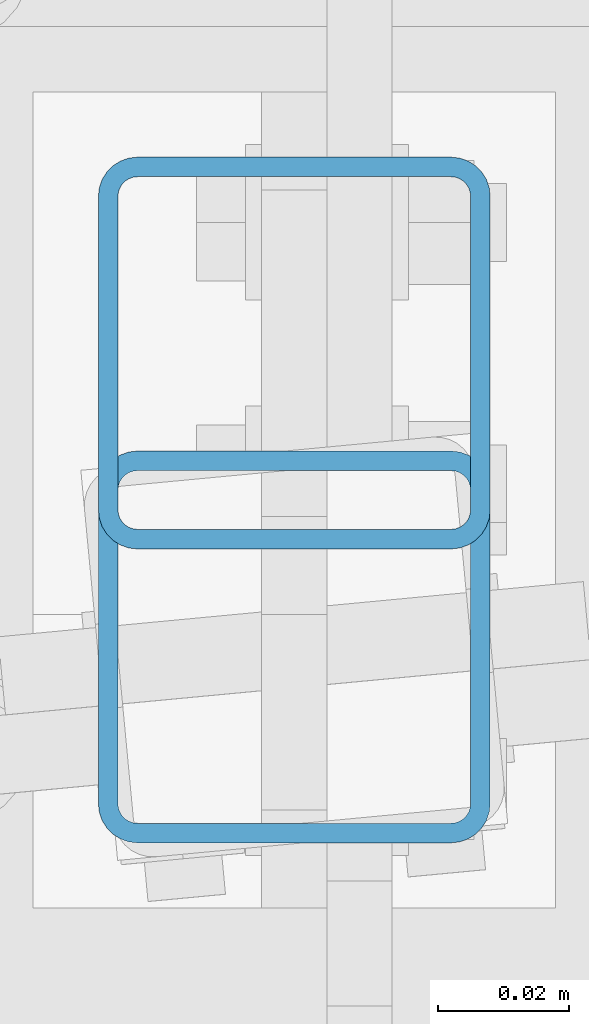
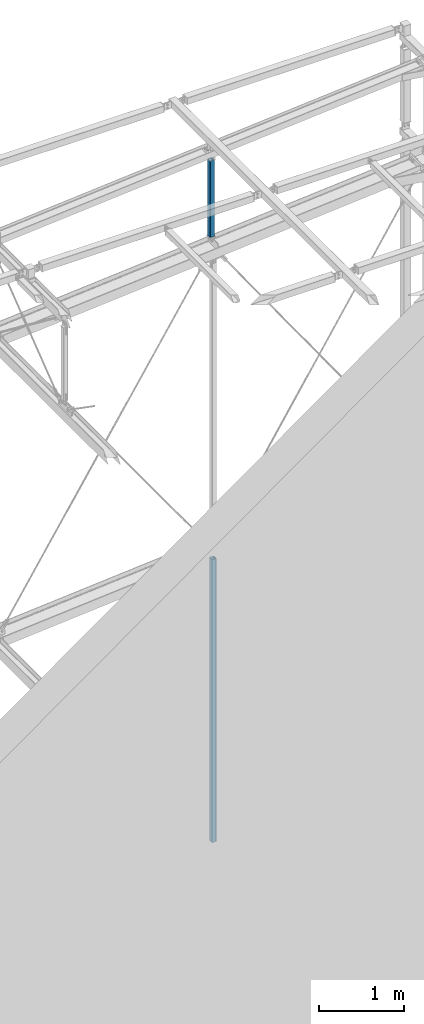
# One storey, part 52 of 271: 2 beams, 2 elements without a shape of their own.
"""IFC2X3 building model written with IfcOpenShell, lengths in millimetres."""

from ifc_helpers import new_model, si_unit, frame, origin_with_axes, origin_2d_with_axis, place, context, subcontext, project, spatial, hollow_rectangle, extrude, clip, halfspace, material, type_object, element, aggregate, save


model = new_model("IFC2X3")

# Units and contexts
model_context = context("Model", 3, precision=1e-05, world=origin_with_axes())
body_context = subcontext(model_context, "Body", "Model", "MODEL_VIEW")
ifc_project = project(units=[si_unit("LENGTHUNIT", "METRE", prefix="MILLI"), si_unit("AREAUNIT", "SQUARE_METRE"), si_unit("VOLUMEUNIT", "CUBIC_METRE"), si_unit("MASSUNIT", "GRAM", prefix="KILO"), si_unit("TIMEUNIT", "SECOND"), si_unit("PLANEANGLEUNIT", "RADIAN"), si_unit("SOLIDANGLEUNIT", "STERADIAN"), si_unit("THERMODYNAMICTEMPERATUREUNIT", "DEGREE_CELSIUS"), si_unit("LUMINOUSINTENSITYUNIT", "LUMEN")], contexts=[model_context])

# Site, building, storey
site_placement = place(None, origin_with_axes())
site = spatial("IfcSite", under=ifc_project, at=site_placement, Name="Undefined", CompositionType="ELEMENT")
building_placement = place(site_placement, origin_with_axes())
building = spatial("IfcBuilding", under=site, at=building_placement, Name="Undefined", CompositionType="ELEMENT")
storey_placement = place(building_placement, origin_with_axes())
storey = spatial("IfcBuildingStorey", under=building, at=storey_placement, Name="Undefined", CompositionType="ELEMENT", Elevation=0.0)

# Assembly, beam
assembly_1_placement = place(storey_placement, origin_with_axes())
assembly_1 = element("IfcElementAssembly", 1, at=assembly_1_placement, inside=storey, AssemblyPlace="NOTDEFINED", PredefinedType="RIGID_FRAME")
ifc_material = material(Name="STEEL/S355JR")
beam_type = type_object("IfcBeamType", Name="SHS60*3", PredefinedType="NOTDEFINED")
beam_1_placement = place(assembly_1_placement, frame((9528.37568709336, 4050.32498425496, 18644.3499999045), z_axis=(0.0, 1.0, 0.0), x_axis=(0.0, 0.0, 1.0)))
beam_1 = element("IfcBeam", 2, at=beam_1_placement, type_object=beam_type, material=ifc_material, Name="TĘŻNIK", ObjectType="SHS60*3", context=body_context, shape_type="Clipping", body=[
    clip(clip(extrude(hollow_rectangle(XDim=60.0, YDim=60.0, WallThickness=3.0, InnerFilletRadius=3.0, OuterFilletRadius=6.0, at=origin_2d_with_axis()), frame((1360.0, 0.0, 0.0), z_axis=(-1.0, 0.0, 1.38777878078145e-17), x_axis=(0.0, -1.0, 0.0)), (0.0, 0.0, 1.0), 1360.0), halfspace(frame((1229.0499999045, 15.0, 0.0), z_axis=(-1.0, 0.0, 1.38777878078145e-17), x_axis=(0.0, 0.0, 1.0)), True)), halfspace(frame((131.599999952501, 15.0, 0.0), z_axis=(1.0, 0.0, 0.0), x_axis=(0.0, 0.0, -1.0)), True)),
])
aggregate(assembly_1, [beam_1])

assembly_2_placement = place(storey_placement, origin_with_axes())
assembly_2 = element("IfcElementAssembly", 3, at=assembly_2_placement, inside=storey, AssemblyPlace="NOTDEFINED", PredefinedType="RIGID_FRAME")
beam_2_placement = place(assembly_2_placement, frame((9528.37568709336, 4005.32498425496, 10004.3499999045), z_axis=(0.0, 1.0, 0.0), x_axis=(0.0, 0.0, 1.0)))
beam_2 = element("IfcBeam", 4, at=beam_2_placement, type_object=beam_type, material=ifc_material, Name="TĘŻNIK", ObjectType="SHS60*3", context=body_context, shape_type="Clipping", body=[
    clip(clip(extrude(hollow_rectangle(XDim=60.0, YDim=60.0, WallThickness=3.0, InnerFilletRadius=3.0, OuterFilletRadius=6.0, at=origin_2d_with_axis()), frame((4320.0, 0.0, 9.09494701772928e-13), z_axis=(-1.0, 0.0, 1.38777878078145e-17), x_axis=(0.0, -1.0, 0.0)), (0.0, 0.0, 1.0), 4320.0), halfspace(frame((4188.4000000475, 15.0, 0.0), z_axis=(-1.0, 0.0, 1.38777878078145e-17), x_axis=(0.0, 0.0, 1.0)), True)), halfspace(frame((131.599999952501, 15.0, 0.0), z_axis=(1.0, 0.0, 0.0), x_axis=(0.0, 0.0, -1.0)), True)),
])
aggregate(assembly_2, [beam_2])

save(model, "model.ifc")
